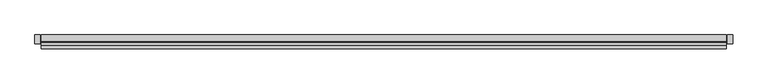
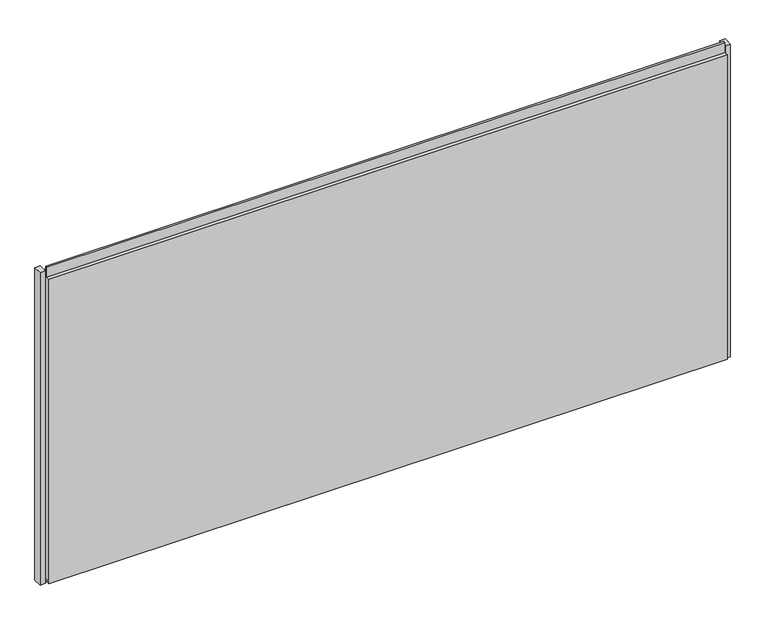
"""IFC4 building model written with IfcOpenShell, lengths in millimetres: plate geometry, Trimo_Qbiss Screen_Normal Panel-HORIZONTAL : HR - B-F."""

from ifc_helpers import new_model, si_unit, frame, origin, place, context, project, spatial, polyline, outline, extrude, source, transform, mapped, element, save


def plate_fe9ce33a(model_context):
    return source(origin(), model_context, "Body", "SweptSolid", [
        extrude(outline(polyline([(-1228.0, 67.8978162), (-1247.0, 67.8978162), (-1247.0, 100.0), (-1228.0, 100.0), (-1228.0, 67.8978162)])), frame((0.0, 0.0, -1.0), z_axis=(0.0, 0.0, 1.0), x_axis=(1.0, 0.0, 0.0)), (0.0, 0.0, 1.0), 1200.0),
        extrude(outline(polyline([(1259.5, 67.8978162), (1240.5, 67.8978162), (1240.5, 100.0), (1259.5, 100.0), (1259.5, 67.8978162)])), frame((0.0, 0.0, -1.0), z_axis=(0.0, 0.0, 1.0), x_axis=(1.0, 0.0, 0.0)), (0.0, 0.0, 1.0), 1200.0),
        extrude(outline(polyline([(1237.5, 76.0), (1237.5, 71.0), (-1225.0, 71.0), (-1225.0, 76.0), (1237.5, 76.0)])), frame((0.0, 0.0, 1178.0), z_axis=(0.0, 0.0, 1.0), x_axis=(1.0, 0.0, 0.0)), (0.0, 0.0, 1.0), 21.0),
        extrude(outline(polyline([(71.0, 1177.0), (100.0, 1177.0), (100.0, 0.0), (72.0, 0.0), (72.0, 15.5), (62.0, 15.5), (62.0, 7.0), (50.0, 7.0), (50.0, 1177.0), (63.0, 1177.0), (63.0, 1214.5), (71.0, 1214.5), (71.0, 1177.0)])), frame((-1225.0, 0.0, 0.0), z_axis=(1.0, 0.0, 0.0), x_axis=(0.0, 1.0, 0.0)), (0.0, 0.0, 1.0), 2462.5),
    ])


if __name__ == "__main__":
    model = new_model("IFC4")
    model_context = context("Model", 3, world=origin())
    ifc_project = project(units=[si_unit("LENGTHUNIT", "METRE", prefix="MILLI")], contexts=[model_context])
    site = spatial("IfcSite", under=ifc_project)
    building = spatial("IfcBuilding", under=site)
    placement = place(None, origin())
    plate_shape = plate_fe9ce33a(model_context)
    element("IfcPlate", 1, ObjectType="Trimo_Qbiss Screen_Normal Panel-HORIZONTAL : HR - B-F", at=placement, inside=building, context=model_context, shape_type="MappedRepresentation", body=[
        mapped(plate_shape, transform((0.0, 0.0, 0.0), x_axis=(1.0, 0.0, 0.0), y_axis=(0.0, 1.0, 0.0), z_axis=(0.0, 0.0, 1.0))),
    ])
    save(model, "model.ifc")
